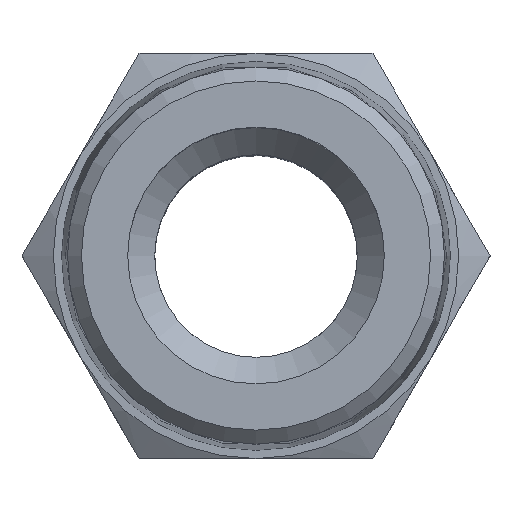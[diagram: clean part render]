
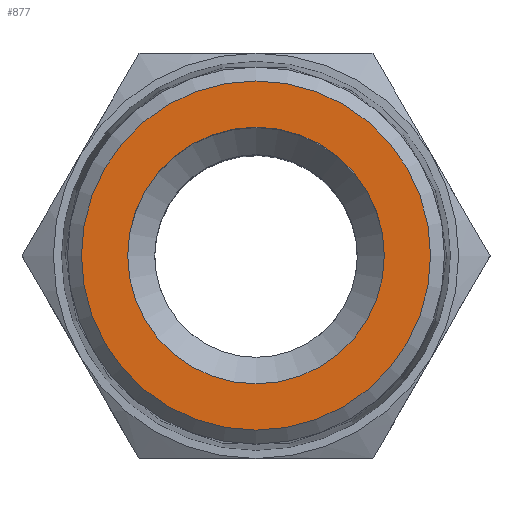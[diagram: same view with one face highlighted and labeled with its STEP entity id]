
A CAD part, top view. The second image highlights one B-rep face of the part: STEP entity #877.
In plain terms, the highlighted planar face has unit normal (0, 0, 1).
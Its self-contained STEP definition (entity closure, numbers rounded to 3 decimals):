
#182=CARTESIAN_POINT('',(9.5,0.0,0.0));
#183=VERTEX_POINT('',#182);
#184=CARTESIAN_POINT('',(0.0,0.0,0.0));
#185=DIRECTION('',(0.0,0.0,-1.0));
#186=DIRECTION('',(1.0,0.0,0.0));
#187=AXIS2_PLACEMENT_3D('',#184,#185,#186);
#188=CIRCLE('',#187,9.5);
#189=EDGE_CURVE('',#183,#183,#188,.T.);
#834=CARTESIAN_POINT('',(-12.924,0.,0.0));
#835=VERTEX_POINT('',#834);
#836=CARTESIAN_POINT('',(0.0,0.0,0.0));
#837=DIRECTION('',(0.0,0.0,-1.0));
#838=DIRECTION('',(1.0,0.0,0.0));
#839=AXIS2_PLACEMENT_3D('',#836,#837,#838);
#840=CIRCLE('',#839,12.924);
#841=EDGE_CURVE('',#835,#835,#840,.T.);
#866=CARTESIAN_POINT('',(0.,0.,0.0));
#867=DIRECTION('',(0.0,0.0,1.0));
#868=DIRECTION('',(1.0,0.0,0.0));
#869=AXIS2_PLACEMENT_3D('',#866,#867,#868);
#870=PLANE('',#869);
#871=ORIENTED_EDGE('',*,*,#841,.F.);
#872=EDGE_LOOP('',(#871));
#873=FACE_OUTER_BOUND('',#872,.T.);
#874=ORIENTED_EDGE('',*,*,#189,.T.);
#875=EDGE_LOOP('',(#874));
#876=FACE_BOUND('',#875,.T.);
#877=ADVANCED_FACE('',(#873,#876),#870,.T.);
